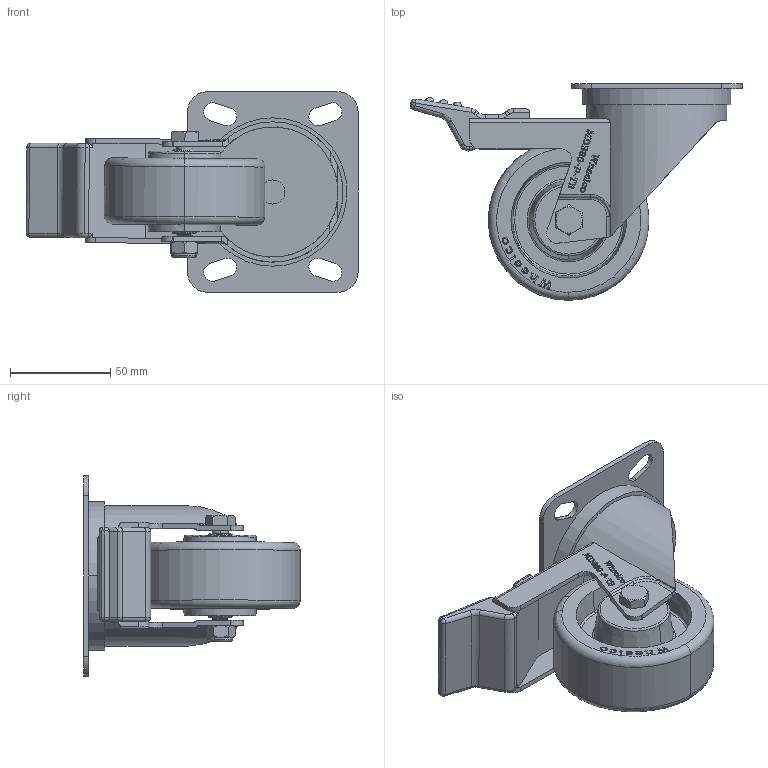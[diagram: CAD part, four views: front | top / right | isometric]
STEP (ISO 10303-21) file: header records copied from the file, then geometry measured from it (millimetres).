
FILE_DESCRIPTION (( 'STEP AP214' ), '1' );
FILE_NAME ('MDU80-P-TB.step', '2024-01-21T22:18:04', ( '' ), ( '' ), 'SwSTEP 2.0', 'SolidWorks 2022', '' );
FILE_SCHEMA (( 'AUTOMOTIVE_DESIGN' ));
Length unit declared in the file: millimetre
Products named in the file (7): MDU80-P-TB; M8Nyloc; 100X85 ANGLED; MCU80; SP12-8-41; M8x55; MCB80-P-TB
Assembly tree (6 placements, depth 2):
  MDU80-P-TB
    M8x55
    M8Nyloc
    SP12-8-41
    MCB80-P-TB
    100X85 ANGLED
    MCU80
Bounding box: 165.59 x 108 x 100 mm (x, y, z)
Volume: 234981.9 mm3; surface area: 90702.9 mm2
Topology: 6 solids, 6 shells, 904 faces, 2421 edges, 1587 vertices
Faces by surface type: plane 426, bspline 226, cylinder 180, torus 37, cone 28, sphere 7
Entity records: 45900 total; most frequent: CARTESIAN_POINT 23689, ORIENTED_EDGE 4834, DIRECTION 3409, EDGE_CURVE 2417, VERTEX_POINT 1585, LINE 1465, VECTOR 1465, EDGE_LOOP 984
